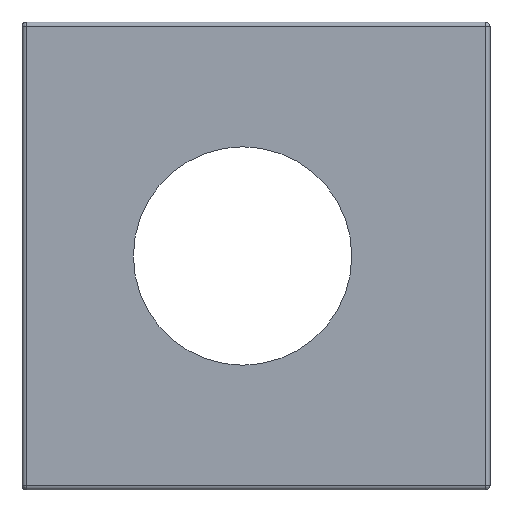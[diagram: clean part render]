
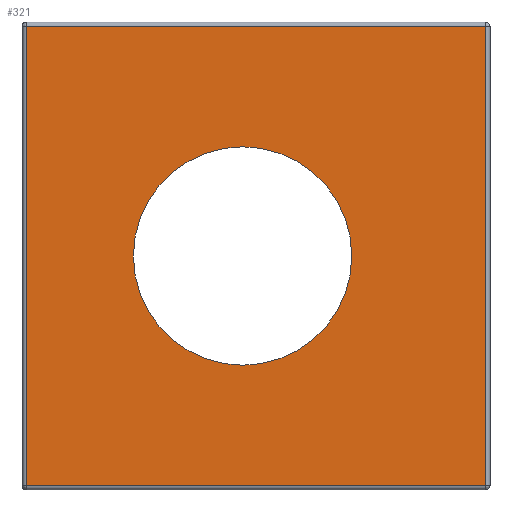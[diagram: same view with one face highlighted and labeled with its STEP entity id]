
A CAD part, left-side view. The second image highlights one B-rep face of the part: STEP entity #321.
In plain terms, the highlighted planar face has unit normal (-1, 0, 0).
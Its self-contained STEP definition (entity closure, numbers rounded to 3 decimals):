
#96 = EDGE_CURVE ( 'NONE', #4321, #1995, #3532, .T. ) ;
#281 = CARTESIAN_POINT ( 'NONE',  ( 2199.177, -660.494, -21. ) ) ;
#292 = VERTEX_POINT ( 'NONE', #4103 ) ;
#321 = ADVANCED_FACE ( 'NONE', ( #930, #2079 ), #1141, .F. ) ;
#425 = EDGE_CURVE ( 'NONE', #4964, #5045, #665, .T. ) ;
#513 = ORIENTED_EDGE ( 'NONE', *, *, #814, .F. ) ;
#522 = CARTESIAN_POINT ( 'NONE',  ( 2199.177, -670.194, -10.5 ) ) ;
#665 = LINE ( 'NONE', #1504, #869 ) ;
#726 = LINE ( 'NONE', #4902, #4135 ) ;
#814 = EDGE_CURVE ( 'NONE', #3673, #292, #3659, .T. ) ;
#869 = VECTOR ( 'NONE', #3213, 1000. ) ;
#930 = FACE_BOUND ( 'NONE', #2327, .T. ) ;
#1002 = ORIENTED_EDGE ( 'NONE', *, *, #1463, .F. ) ;
#1141 = PLANE ( 'NONE',  #2697 ) ;
#1191 = LINE ( 'NONE', #3467, #4884 ) ;
#1273 = DIRECTION ( 'NONE',  ( 1., 0., 0. ) ) ;
#1358 = DIRECTION ( 'NONE',  ( 0., 0., -1. ) ) ;
#1463 = EDGE_CURVE ( 'NONE', #292, #4964, #726, .T. ) ;
#1504 = CARTESIAN_POINT ( 'NONE',  ( 2199.177, -681.094, -21. ) ) ;
#1550 = EDGE_LOOP ( 'NONE', ( #1002, #513, #4033, #3358 ) ) ;
#1695 = AXIS2_PLACEMENT_3D ( 'NONE', #3410, #1273, #5559 ) ;
#1910 = AXIS2_PLACEMENT_3D ( 'NONE', #522, #3980, #1358 ) ;
#1995 = VERTEX_POINT ( 'NONE', #4045 ) ;
#2079 = FACE_OUTER_BOUND ( 'NONE', #1550, .T. ) ;
#2151 = CARTESIAN_POINT ( 'NONE',  ( 2199.177, -660.494, -20.8 ) ) ;
#2327 = EDGE_LOOP ( 'NONE', ( #4263, #3368 ) ) ;
#2639 = CARTESIAN_POINT ( 'NONE',  ( 2199.177, -681.094, -20.8 ) ) ;
#2697 = AXIS2_PLACEMENT_3D ( 'NONE', #5367, #2814, #3219 ) ;
#2809 = VECTOR ( 'NONE', #4132, 1000. ) ;
#2814 = DIRECTION ( 'NONE',  ( 1., 0., 0. ) ) ;
#3213 = DIRECTION ( 'NONE',  ( 0., 0., -1. ) ) ;
#3219 = DIRECTION ( 'NONE',  ( 0., 0., -1. ) ) ;
#3358 = ORIENTED_EDGE ( 'NONE', *, *, #425, .F. ) ;
#3368 = ORIENTED_EDGE ( 'NONE', *, *, #3484, .T. ) ;
#3410 = CARTESIAN_POINT ( 'NONE',  ( 2199.177, -670.194, -10.5 ) ) ;
#3467 = CARTESIAN_POINT ( 'NONE',  ( 2199.177, -681.294, -20.8 ) ) ;
#3470 = CIRCLE ( 'NONE', #1695, 4.9 ) ;
#3484 = EDGE_CURVE ( 'NONE', #1995, #4321, #3470, .T. ) ;
#3532 = CIRCLE ( 'NONE', #1910, 4.9 ) ;
#3629 = DIRECTION ( 'NONE',  ( 0., -1., 0. ) ) ;
#3659 = LINE ( 'NONE', #281, #2809 ) ;
#3673 = VERTEX_POINT ( 'NONE', #2151 ) ;
#3980 = DIRECTION ( 'NONE',  ( 1., 0., 0. ) ) ;
#4027 = CARTESIAN_POINT ( 'NONE',  ( 2199.177, -670.194, -15.4 ) ) ;
#4031 = EDGE_CURVE ( 'NONE', #5045, #3673, #1191, .T. ) ;
#4033 = ORIENTED_EDGE ( 'NONE', *, *, #4031, .F. ) ;
#4045 = CARTESIAN_POINT ( 'NONE',  ( 2199.177, -670.194, -5.6 ) ) ;
#4103 = CARTESIAN_POINT ( 'NONE',  ( 2199.177, -660.494, -0.2 ) ) ;
#4132 = DIRECTION ( 'NONE',  ( 0., 0., 1. ) ) ;
#4135 = VECTOR ( 'NONE', #3629, 1000. ) ;
#4263 = ORIENTED_EDGE ( 'NONE', *, *, #96, .T. ) ;
#4321 = VERTEX_POINT ( 'NONE', #4027 ) ;
#4884 = VECTOR ( 'NONE', #5318, 1000. ) ;
#4902 = CARTESIAN_POINT ( 'NONE',  ( 2199.177, -681.294, -0.2 ) ) ;
#4964 = VERTEX_POINT ( 'NONE', #5104 ) ;
#5045 = VERTEX_POINT ( 'NONE', #2639 ) ;
#5104 = CARTESIAN_POINT ( 'NONE',  ( 2199.177, -681.094, -0.2 ) ) ;
#5318 = DIRECTION ( 'NONE',  ( 0., 1., 0. ) ) ;
#5367 = CARTESIAN_POINT ( 'NONE',  ( 2199.177, -681.294, -21. ) ) ;
#5559 = DIRECTION ( 'NONE',  ( 0., 0., -1. ) ) ;
